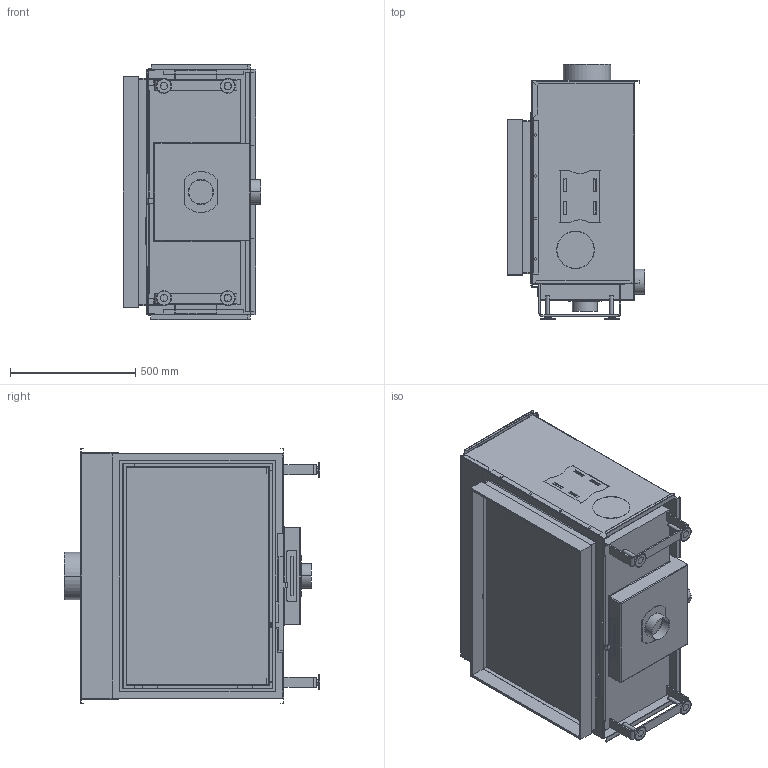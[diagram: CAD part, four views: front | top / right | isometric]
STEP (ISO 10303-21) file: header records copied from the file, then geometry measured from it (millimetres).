
FILE_DESCRIPTION(('Creo Elements/Direct Modeling STEP Export'),'2;1');
FILE_NAME('metalfire_CITIZEN 900-60 WHE 1S.stp','2020-02-12T10:45:56',(''),(''),'PTC Creo Elements/Direct Modeling STEP processor for AP214 (Solid Model)','PTC Creo Elements/Direct Modeling 19.0B 21-Mar-2015 (C) Parametric Technology GmbH','');
FILE_SCHEMA(('AUTOMOTIVE_DESIGN { 1 0 10303 214 1 1 1 1 }'));
Length unit declared in the file: millimetre
Products named in the file (8): CITIZEN_MF_900-60_WHE_1S_RECHTS_Chassis; Door; Galva_Cover; Standard_frame; CTZ_900-60_1S; FinishingFrame; Options; CITIZEN_MF_900-60_WHE_1S_RECHTS
Assembly tree (7 placements, depth 3):
  CITIZEN_MF_900-60_WHE_1S_RECHTS
    Options
      FinishingFrame
    CTZ_900-60_1S
      Standard_frame
      Galva_Cover
      Door
      CITIZEN_MF_900-60_WHE_1S_RECHTS_Chassis
Bounding box: 548 x 1021 x 1023 mm (x, y, z)
Volume: 121369540 mm3; surface area: 12101449.5 mm2
Topology: 5 solids, 11 shells, 1527 faces, 4241 edges, 2779 vertices
Faces by surface type: plane 1006, cylinder 429, cone 56, bspline 30, sphere 4, torus 2
Entity records: 54268 total; most frequent: CARTESIAN_POINT 15160, ORIENTED_EDGE 8470, DIRECTION 7468, EDGE_CURVE 4235, VECTOR 3096, LINE 3096, VERTEX_POINT 2779, AXIS2_PLACEMENT_3D 2186
